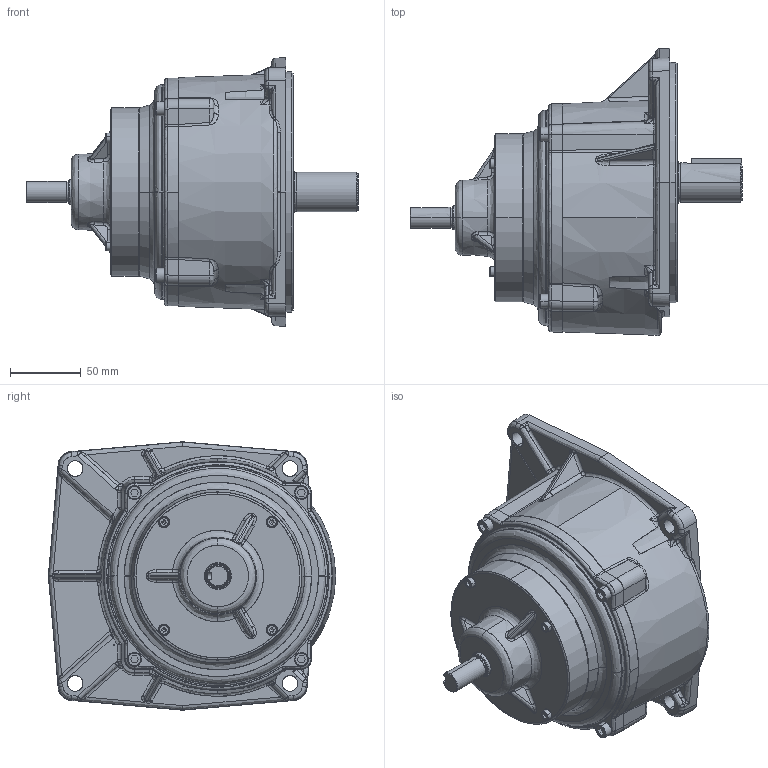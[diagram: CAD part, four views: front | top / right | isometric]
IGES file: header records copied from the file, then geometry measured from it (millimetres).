
Start section: SolidWorks IGES file using analytic representation for surfaces
Bounding box: 235 x 203.34 x 190 mm (x, y, z)
Surface area: 226051.4 mm2 (no closed solid volume)
Topology: 0 solids, 0 shells, 739 faces, 8839 edges, 8820 vertices
Faces by surface type: bspline 481, revolution 258
